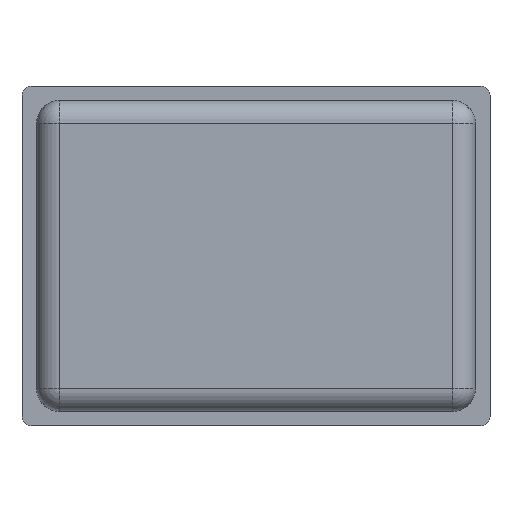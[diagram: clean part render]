
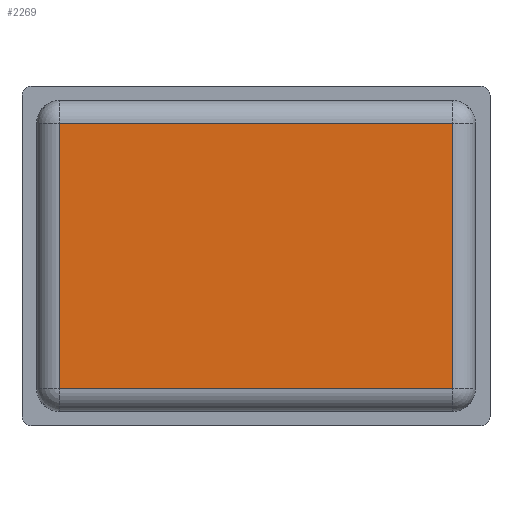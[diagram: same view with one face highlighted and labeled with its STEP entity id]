
A CAD part, front view. The second image highlights one B-rep face of the part: STEP entity #2269.
In plain terms, the highlighted planar face has unit normal (0, -1, 0).
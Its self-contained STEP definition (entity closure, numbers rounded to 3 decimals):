
#35 = DIRECTION ( 'NONE',  ( 1., 0., 0. ) ) ;
#136 = CARTESIAN_POINT ( 'NONE',  ( -21.5, -17., 14.5 ) ) ;
#238 = EDGE_LOOP ( 'NONE', ( #1409, #2891, #1172, #2188 ) ) ;
#239 = DIRECTION ( 'NONE',  ( -1., 0., 0. ) ) ;
#373 = CARTESIAN_POINT ( 'NONE',  ( 21.5, -17., -14.5 ) ) ;
#497 = DIRECTION ( 'NONE',  ( 0., 0., 1. ) ) ;
#525 = LINE ( 'NONE', #2418, #1687 ) ;
#662 = LINE ( 'NONE', #1985, #4027 ) ;
#928 = VECTOR ( 'NONE', #35, 1000. ) ;
#1093 = VERTEX_POINT ( 'NONE', #136 ) ;
#1172 = ORIENTED_EDGE ( 'NONE', *, *, #2416, .T. ) ;
#1308 = VERTEX_POINT ( 'NONE', #1875 ) ;
#1409 = ORIENTED_EDGE ( 'NONE', *, *, #3510, .T. ) ;
#1674 = CARTESIAN_POINT ( 'NONE',  ( 0., -17., 0. ) ) ;
#1687 = VECTOR ( 'NONE', #2164, 1000. ) ;
#1691 = DIRECTION ( 'NONE',  ( 0., 1., 0. ) ) ;
#1754 = PLANE ( 'NONE',  #1986 ) ;
#1875 = CARTESIAN_POINT ( 'NONE',  ( 21.5, -17., -14.5 ) ) ;
#1903 = VECTOR ( 'NONE', #2694, 1000. ) ;
#1985 = CARTESIAN_POINT ( 'NONE',  ( -21.5, -17., 14.5 ) ) ;
#1986 = AXIS2_PLACEMENT_3D ( 'NONE', #1674, #1691, #497 ) ;
#2164 = DIRECTION ( 'NONE',  ( 0., 0., 1. ) ) ;
#2188 = ORIENTED_EDGE ( 'NONE', *, *, #3475, .T. ) ;
#2200 = VERTEX_POINT ( 'NONE', #2771 ) ;
#2250 = FACE_OUTER_BOUND ( 'NONE', #238, .T. ) ;
#2269 = ADVANCED_FACE ( 'NONE', ( #2250 ), #1754, .F. ) ;
#2295 = EDGE_CURVE ( 'NONE', #1308, #2200, #525, .T. ) ;
#2416 = EDGE_CURVE ( 'NONE', #2200, #1093, #662, .T. ) ;
#2418 = CARTESIAN_POINT ( 'NONE',  ( 21.5, -17., 14.5 ) ) ;
#2694 = DIRECTION ( 'NONE',  ( 0., 0., -1. ) ) ;
#2706 = CARTESIAN_POINT ( 'NONE',  ( -21.5, -17., -14.5 ) ) ;
#2771 = CARTESIAN_POINT ( 'NONE',  ( 21.5, -17., 14.5 ) ) ;
#2786 = LINE ( 'NONE', #3199, #1903 ) ;
#2891 = ORIENTED_EDGE ( 'NONE', *, *, #2295, .T. ) ;
#3199 = CARTESIAN_POINT ( 'NONE',  ( -21.5, -17., -14.5 ) ) ;
#3475 = EDGE_CURVE ( 'NONE', #1093, #4071, #2786, .T. ) ;
#3510 = EDGE_CURVE ( 'NONE', #4071, #1308, #3565, .T. ) ;
#3565 = LINE ( 'NONE', #373, #928 ) ;
#4027 = VECTOR ( 'NONE', #239, 1000. ) ;
#4071 = VERTEX_POINT ( 'NONE', #2706 ) ;
